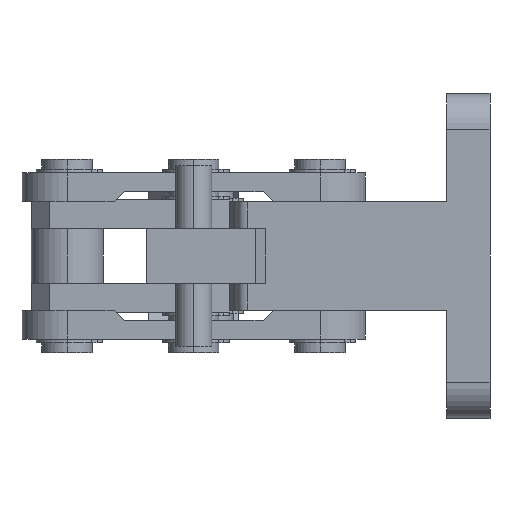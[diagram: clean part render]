
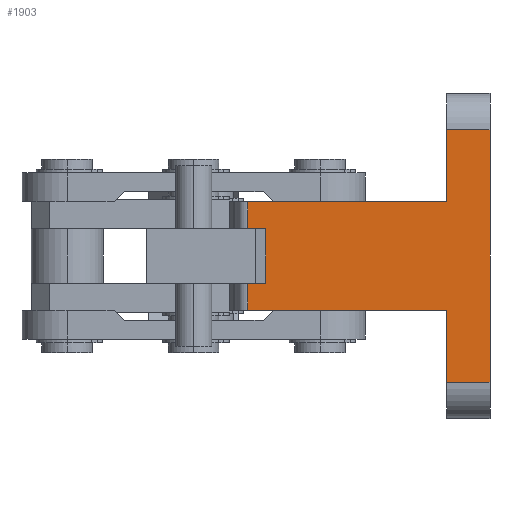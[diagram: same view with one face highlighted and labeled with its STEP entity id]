
A CAD part, left-side view. The second image highlights one B-rep face of the part: STEP entity #1903.
In plain terms, the highlighted planar face has unit normal (-1, 0, 0).
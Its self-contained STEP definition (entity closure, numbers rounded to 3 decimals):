
#1572 = EDGE_CURVE ( 'NONE', #1653, #1573, #6711, .T. ) ;
#1573 = VERTEX_POINT ( 'NONE', #6707 ) ;
#1617 = EDGE_CURVE ( 'NONE', #1633, #1618, #6819, .T. ) ;
#1618 = VERTEX_POINT ( 'NONE', #6815 ) ;
#1632 = EDGE_CURVE ( 'NONE', #1639, #1633, #6806, .T. ) ;
#1633 = VERTEX_POINT ( 'NONE', #6799 ) ;
#1638 = EDGE_CURVE ( 'NONE', #1573, #1639, #6850, .T. ) ;
#1639 = VERTEX_POINT ( 'NONE', #6844 ) ;
#1653 = VERTEX_POINT ( 'NONE', #6823 ) ;
#1671 = EDGE_CURVE ( 'NONE', #1618, #1672, #6882, .T. ) ;
#1672 = VERTEX_POINT ( 'NONE', #6878 ) ;
#1679 = EDGE_CURVE ( 'NONE', #1672, #1680, #6867, .T. ) ;
#1680 = VERTEX_POINT ( 'NONE', #6860 ) ;
#1719 = EDGE_CURVE ( 'NONE', #1680, #1733, #6945, .T. ) ;
#1733 = VERTEX_POINT ( 'NONE', #6926 ) ;
#1745 = EDGE_CURVE ( 'NONE', #1774, #1653, #6977, .T. ) ;
#1771 = VERTEX_POINT ( 'NONE', #7002 ) ;
#1773 = EDGE_CURVE ( 'NONE', #1771, #1774, #7001, .T. ) ;
#1774 = VERTEX_POINT ( 'NONE', #6997 ) ;
#1846 = VERTEX_POINT ( 'NONE', #7101 ) ;
#1901 = EDGE_CURVE ( 'NONE', #1733, #1846, #7194, .T. ) ;
#1903 = ADVANCED_FACE ( 'NONE', ( #7190 ), #7189, .F. ) ;
#1904 = EDGE_LOOP ( 'NONE', ( #1905, #1906, #1967, #1969, #1970, #1971, #1972, #1973, #1974, #1975, #1956, #1957 ) ) ;
#1905 = ORIENTED_EDGE ( 'NONE', *, *, #1773, .F. ) ;
#1906 = ORIENTED_EDGE ( 'NONE', *, *, #1985, .F. ) ;
#1956 = ORIENTED_EDGE ( 'NONE', *, *, #1572, .F. ) ;
#1957 = ORIENTED_EDGE ( 'NONE', *, *, #1745, .F. ) ;
#1967 = ORIENTED_EDGE ( 'NONE', *, *, #1968, .T. ) ;
#1968 = EDGE_CURVE ( 'NONE', #1983, #1846, #7248, .T. ) ;
#1969 = ORIENTED_EDGE ( 'NONE', *, *, #1901, .F. ) ;
#1970 = ORIENTED_EDGE ( 'NONE', *, *, #1719, .F. ) ;
#1971 = ORIENTED_EDGE ( 'NONE', *, *, #1679, .F. ) ;
#1972 = ORIENTED_EDGE ( 'NONE', *, *, #1671, .F. ) ;
#1973 = ORIENTED_EDGE ( 'NONE', *, *, #1617, .F. ) ;
#1974 = ORIENTED_EDGE ( 'NONE', *, *, #1632, .F. ) ;
#1975 = ORIENTED_EDGE ( 'NONE', *, *, #1638, .F. ) ;
#1983 = VERTEX_POINT ( 'NONE', #7229 ) ;
#1985 = EDGE_CURVE ( 'NONE', #1983, #1771, #7228, .T. ) ;
#6707 = CARTESIAN_POINT ( 'NONE',  ( 0., 67., -7.6 ) ) ;
#6708 = DIRECTION ( 'NONE',  ( 0., 0., 1. ) ) ;
#6709 = VECTOR ( 'NONE', #6708, 1000. ) ;
#6710 = CARTESIAN_POINT ( 'NONE',  ( 0., 67., 45. ) ) ;
#6711 = LINE ( 'NONE', #6710, #6709 ) ;
#6799 = CARTESIAN_POINT ( 'NONE',  ( 0., 62., 7.6 ) ) ;
#6800 = DIRECTION ( 'NONE',  ( 0., 0., 1. ) ) ;
#6801 = VECTOR ( 'NONE', #6800, 1000. ) ;
#6802 = CARTESIAN_POINT ( 'NONE',  ( 0., 62., 45. ) ) ;
#6806 = LINE ( 'NONE', #6802, #6801 ) ;
#6815 = CARTESIAN_POINT ( 'NONE',  ( 0., 67., 7.6 ) ) ;
#6816 = DIRECTION ( 'NONE',  ( 0., 1., 0. ) ) ;
#6817 = VECTOR ( 'NONE', #6816, 1000. ) ;
#6818 = CARTESIAN_POINT ( 'NONE',  ( 0., 67., 7.6 ) ) ;
#6819 = LINE ( 'NONE', #6818, #6817 ) ;
#6823 = CARTESIAN_POINT ( 'NONE',  ( 0., 67., -15. ) ) ;
#6844 = CARTESIAN_POINT ( 'NONE',  ( 0., 62., -7.6 ) ) ;
#6845 = DIRECTION ( 'NONE',  ( 0., -1., 0. ) ) ;
#6846 = VECTOR ( 'NONE', #6845, 1000. ) ;
#6847 = CARTESIAN_POINT ( 'NONE',  ( 0., 67., -7.6 ) ) ;
#6850 = LINE ( 'NONE', #6847, #6846 ) ;
#6860 = CARTESIAN_POINT ( 'NONE',  ( 0., 12., 15. ) ) ;
#6861 = DIRECTION ( 'NONE',  ( 0., -1., 0. ) ) ;
#6862 = VECTOR ( 'NONE', #6861, 1000. ) ;
#6863 = CARTESIAN_POINT ( 'NONE',  ( 0., 67., 15. ) ) ;
#6867 = LINE ( 'NONE', #6863, #6862 ) ;
#6878 = CARTESIAN_POINT ( 'NONE',  ( 0., 67., 15. ) ) ;
#6879 = DIRECTION ( 'NONE',  ( 0., 0., 1. ) ) ;
#6880 = VECTOR ( 'NONE', #6879, 1000. ) ;
#6881 = CARTESIAN_POINT ( 'NONE',  ( 0., 67., 45. ) ) ;
#6882 = LINE ( 'NONE', #6881, #6880 ) ;
#6926 = CARTESIAN_POINT ( 'NONE',  ( 0., 12., 35. ) ) ;
#6942 = DIRECTION ( 'NONE',  ( 0., 0., 1. ) ) ;
#6943 = VECTOR ( 'NONE', #6942, 1000. ) ;
#6944 = CARTESIAN_POINT ( 'NONE',  ( 0., 12., 45. ) ) ;
#6945 = LINE ( 'NONE', #6944, #6943 ) ;
#6974 = DIRECTION ( 'NONE',  ( 0., 1., 0. ) ) ;
#6975 = VECTOR ( 'NONE', #6974, 1000. ) ;
#6976 = CARTESIAN_POINT ( 'NONE',  ( 0., 67., -15. ) ) ;
#6977 = LINE ( 'NONE', #6976, #6975 ) ;
#6997 = CARTESIAN_POINT ( 'NONE',  ( 0., 12., -15. ) ) ;
#6998 = DIRECTION ( 'NONE',  ( 0., 0., 1. ) ) ;
#6999 = VECTOR ( 'NONE', #6998, 1000. ) ;
#7000 = CARTESIAN_POINT ( 'NONE',  ( 0., 12., 45. ) ) ;
#7001 = LINE ( 'NONE', #7000, #6999 ) ;
#7002 = CARTESIAN_POINT ( 'NONE',  ( 0., 12., -35. ) ) ;
#7101 = CARTESIAN_POINT ( 'NONE',  ( 0., 0., 35. ) ) ;
#7184 = DIRECTION ( 'NONE',  ( 0., 0., -1. ) ) ;
#7185 = DIRECTION ( 'NONE',  ( 1., 0., 0. ) ) ;
#7186 = CARTESIAN_POINT ( 'NONE',  ( 0., 67., 45. ) ) ;
#7188 = AXIS2_PLACEMENT_3D ( 'NONE', #7186, #7185, #7184 ) ;
#7189 = PLANE ( 'NONE',  #7188 ) ;
#7190 = FACE_OUTER_BOUND ( 'NONE', #1904, .T. ) ;
#7191 = DIRECTION ( 'NONE',  ( 0., -1., 0. ) ) ;
#7192 = VECTOR ( 'NONE', #7191, 1000. ) ;
#7193 = CARTESIAN_POINT ( 'NONE',  ( 0., 67., 35. ) ) ;
#7194 = LINE ( 'NONE', #7193, #7192 ) ;
#7228 = LINE ( 'NONE', #7293, #7292 ) ;
#7229 = CARTESIAN_POINT ( 'NONE',  ( 0., 0., -35. ) ) ;
#7245 = DIRECTION ( 'NONE',  ( 0., 0., 1. ) ) ;
#7246 = VECTOR ( 'NONE', #7245, 1000. ) ;
#7247 = CARTESIAN_POINT ( 'NONE',  ( 0., 0., 45. ) ) ;
#7248 = LINE ( 'NONE', #7247, #7246 ) ;
#7291 = DIRECTION ( 'NONE',  ( 0., 1., 0. ) ) ;
#7292 = VECTOR ( 'NONE', #7291, 1000. ) ;
#7293 = CARTESIAN_POINT ( 'NONE',  ( 0., 67., -35. ) ) ;
